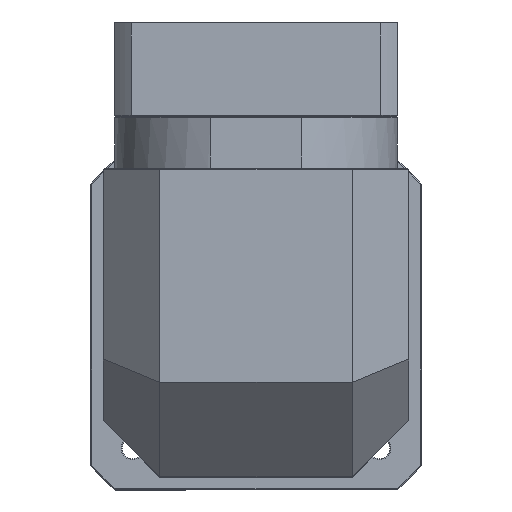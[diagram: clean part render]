
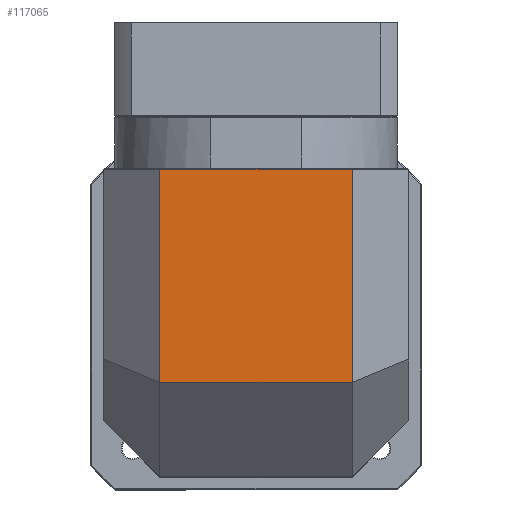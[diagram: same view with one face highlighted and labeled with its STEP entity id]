
A CAD part, top view. The second image highlights one B-rep face of the part: STEP entity #117065.
In plain terms, the highlighted planar face has unit normal (0, 0, 1).
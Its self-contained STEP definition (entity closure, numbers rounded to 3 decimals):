
#3184 = PLANE ( 'NONE',  #124430 ) ;
#4119 = LINE ( 'NONE', #15756, #85034 ) ;
#6546 = VECTOR ( 'NONE', #87367, 1000. ) ;
#13826 = CARTESIAN_POINT ( 'NONE',  ( -165.293, 177.505, 72.483 ) ) ;
#15756 = CARTESIAN_POINT ( 'NONE',  ( -135.293, 95.755, 72.483 ) ) ;
#29751 = EDGE_CURVE ( 'NONE', #109523, #83516, #113221, .T. ) ;
#30457 = ORIENTED_EDGE ( 'NONE', *, *, #53277, .T. ) ;
#32948 = VERTEX_POINT ( 'NONE', #93378 ) ;
#35048 = DIRECTION ( 'NONE',  ( 0., 0., -1. ) ) ;
#35697 = CARTESIAN_POINT ( 'NONE',  ( -135.293, 177.005, 72.483 ) ) ;
#53277 = EDGE_CURVE ( 'NONE', #32948, #122526, #54335, .T. ) ;
#54335 = LINE ( 'NONE', #113153, #97101 ) ;
#54579 = LINE ( 'NONE', #65758, #6546 ) ;
#54975 = DIRECTION ( 'NONE',  ( 1., 0., 0. ) ) ;
#60592 = ORIENTED_EDGE ( 'NONE', *, *, #96627, .F. ) ;
#65758 = CARTESIAN_POINT ( 'NONE',  ( -33.293, 177.505, 72.483 ) ) ;
#66658 = ORIENTED_EDGE ( 'NONE', *, *, #29751, .T. ) ;
#68629 = EDGE_LOOP ( 'NONE', ( #72101, #30457, #60592, #66658 ) ) ;
#69267 = DIRECTION ( 'NONE',  ( 0., 1., 0. ) ) ;
#72101 = ORIENTED_EDGE ( 'NONE', *, *, #124233, .T. ) ;
#83516 = VERTEX_POINT ( 'NONE', #91505 ) ;
#85034 = VECTOR ( 'NONE', #69267, 1000. ) ;
#85387 = FACE_OUTER_BOUND ( 'NONE', #68629, .T. ) ;
#87367 = DIRECTION ( 'NONE',  ( 0., 1., 0. ) ) ;
#91505 = CARTESIAN_POINT ( 'NONE',  ( -33.293, 64.005, 72.483 ) ) ;
#93378 = CARTESIAN_POINT ( 'NONE',  ( -33.293, 177.005, 72.483 ) ) ;
#95492 = DIRECTION ( 'NONE',  ( 1., 0., 0. ) ) ;
#96627 = EDGE_CURVE ( 'NONE', #109523, #122526, #4119, .T. ) ;
#97101 = VECTOR ( 'NONE', #124246, 1000. ) ;
#109523 = VERTEX_POINT ( 'NONE', #136661 ) ;
#113153 = CARTESIAN_POINT ( 'NONE',  ( -165.293, 177.005, 72.483 ) ) ;
#113221 = LINE ( 'NONE', #116228, #116538 ) ;
#116228 = CARTESIAN_POINT ( 'NONE',  ( -165.293, 64.005, 72.483 ) ) ;
#116538 = VECTOR ( 'NONE', #95492, 1000. ) ;
#117065 = ADVANCED_FACE ( 'NONE', ( #85387 ), #3184, .F. ) ;
#122526 = VERTEX_POINT ( 'NONE', #35697 ) ;
#124233 = EDGE_CURVE ( 'NONE', #83516, #32948, #54579, .T. ) ;
#124246 = DIRECTION ( 'NONE',  ( -1., 0., 0. ) ) ;
#124430 = AXIS2_PLACEMENT_3D ( 'NONE', #13826, #35048, #54975 ) ;
#136661 = CARTESIAN_POINT ( 'NONE',  ( -135.293, 64.005, 72.483 ) ) ;
